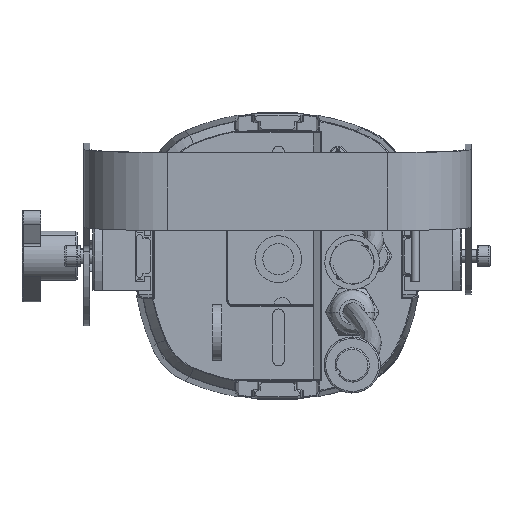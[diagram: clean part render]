
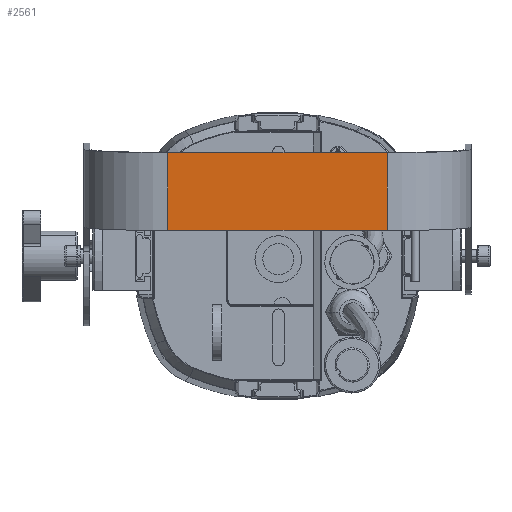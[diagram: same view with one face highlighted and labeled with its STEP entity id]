
A CAD part, front view. The second image highlights one B-rep face of the part: STEP entity #2561.
In plain terms, the highlighted planar face has unit normal (0, -0.999, -0.039).
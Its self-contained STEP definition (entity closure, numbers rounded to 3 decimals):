
#2043=DIRECTION('',(-1.,0.,0.));
#2044=VECTOR('',#2043,70.5);
#2045=CARTESIAN_POINT('',(91.5,-69.328,34.193));
#2046=LINE('',#2045,#2044);
#2094=DIRECTION('',(0.,0.039,-0.999));
#2095=VECTOR('',#2094,25.);
#2096=CARTESIAN_POINT('',(21.,-69.328,34.193));
#2097=LINE('',#2096,#2095);
#2098=DIRECTION('',(0.,0.039,-0.999));
#2099=VECTOR('',#2098,25.);
#2100=CARTESIAN_POINT('',(91.5,-69.328,34.193));
#2101=LINE('',#2100,#2099);
#2167=DIRECTION('',(-1.,0.,0.));
#2168=VECTOR('',#2167,70.5);
#2169=CARTESIAN_POINT('',(91.5,-68.36,9.212));
#2170=LINE('',#2169,#2168);
#2292=CARTESIAN_POINT('',(91.5,-69.328,34.193));
#2293=CARTESIAN_POINT('',(21.,-69.328,34.193));
#2294=VERTEX_POINT('',#2292);
#2295=VERTEX_POINT('',#2293);
#2300=CARTESIAN_POINT('',(91.5,-68.36,9.212));
#2301=CARTESIAN_POINT('',(21.,-68.36,9.212));
#2302=VERTEX_POINT('',#2300);
#2303=VERTEX_POINT('',#2301);
#2548=CARTESIAN_POINT('',(91.5,-69.328,34.193));
#2549=DIRECTION('',(0.,-0.999,-0.039));
#2550=DIRECTION('',(-1.,0.,0.));
#2551=AXIS2_PLACEMENT_3D('',#2548,#2549,#2550);
#2552=PLANE('',#2551);
#2553=ORIENTED_EDGE('',*,*,#2403,.F.);
#2555=ORIENTED_EDGE('',*,*,#2554,.T.);
#2557=ORIENTED_EDGE('',*,*,#2556,.T.);
#2558=ORIENTED_EDGE('',*,*,#2533,.F.);
#2559=EDGE_LOOP('',(#2553,#2555,#2557,#2558));
#2560=FACE_OUTER_BOUND('',#2559,.F.);
#2403=EDGE_CURVE('',#2294,#2295,#2046,.T.);
#2533=EDGE_CURVE('',#2295,#2303,#2097,.T.);
#2554=EDGE_CURVE('',#2294,#2302,#2101,.T.);
#2556=EDGE_CURVE('',#2302,#2303,#2170,.T.);
#2561=ADVANCED_FACE('',(#2560),#2552,.T.);
